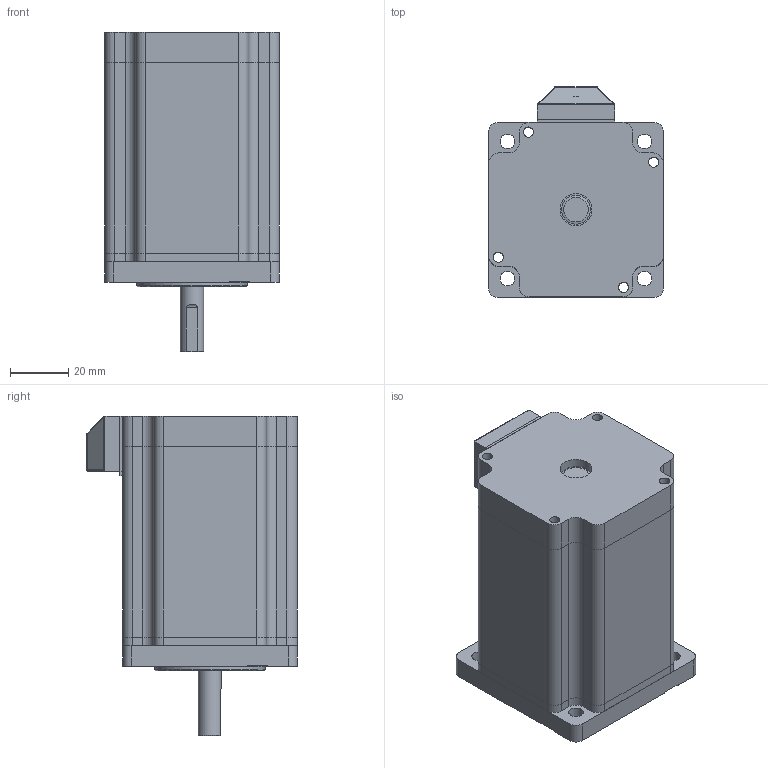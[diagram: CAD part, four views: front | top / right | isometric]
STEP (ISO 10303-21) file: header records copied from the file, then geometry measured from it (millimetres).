
FILE_DESCRIPTION( ('This file contains a STEP AP42 implementation' ,'as created by ZW3D STEP Interface translator.') ,'2;1' );
FILE_NAME( 'AM510A-60A0320-0000.stp' ,'24 724.1744 4', (''), ('ZWCAD Software Co.'), 'Version 1.0', 'ZW3D to STEP translator', '' );
FILE_SCHEMA(('AUTOMOTIVE_DESIGN { 1 0 10303 214 1 1 1 1 }'));
Length unit declared in the file: millimetre
Products named in the file (2): 0; 睽捶60(3.2N) -
Bounding box: 60 x 72.3 x 110 mm (x, y, z)
Volume: 274573.5 mm3; surface area: 57639.3 mm2
Topology: 9 solids, 12 shells, 185 faces, 515 edges, 389 vertices
Faces by surface type: plane 91, cylinder 83, cone 7, sphere 4
Full cylindrical faces by diameter (mm): 3.5 x12, 5 x4, 8 x1, 10 x2, 11 x5, 15 x1, 38.1 x1
Entity records: 6174 total; most frequent: CARTESIAN_POINT 1071, DIRECTION 1060, ORIENTED_EDGE 896, EDGE_CURVE 475, AXIS2_PLACEMENT_3D 373, VECTOR 314, LINE 314, VERTEX_POINT 310
